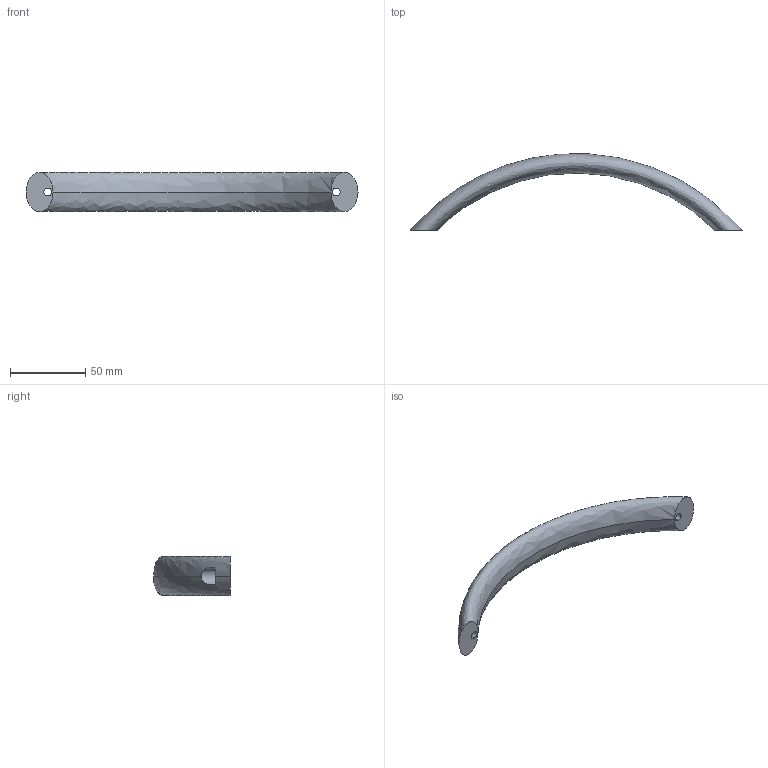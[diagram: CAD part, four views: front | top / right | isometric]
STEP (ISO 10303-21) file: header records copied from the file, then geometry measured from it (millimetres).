
FILE_DESCRIPTION (( 'STEP AP203' ), '1' );
FILE_NAME ('gn565-4_b_192-m5.step', '2010-11-02T08:21:22', ( '_' ), ( '_' ), 'SwSTEP 2.0', 'SolidWorks 2010', '' );
FILE_SCHEMA (( 'CONFIG_CONTROL_DESIGN' ));
Length unit declared in the file: millimetre
Products named in the file (1): gn565-4_b_192-m5
Bounding box: 221 x 50.76 x 26 mm (x, y, z)
Volume: 60083.9 mm3; surface area: 15816.6 mm2
Topology: 1 solids, 1 shells, 22 faces, 54 edges, 36 vertices
Faces by surface type: cylinder 10, plane 10, bspline 2
Entity records: 2081 total; most frequent: CARTESIAN_POINT 1499, ORIENTED_EDGE 108, DIRECTION 94, EDGE_CURVE 54, AXIS2_PLACEMENT_3D 39, VERTEX_POINT 36, EDGE_LOOP 28, ADVANCED_FACE 22
